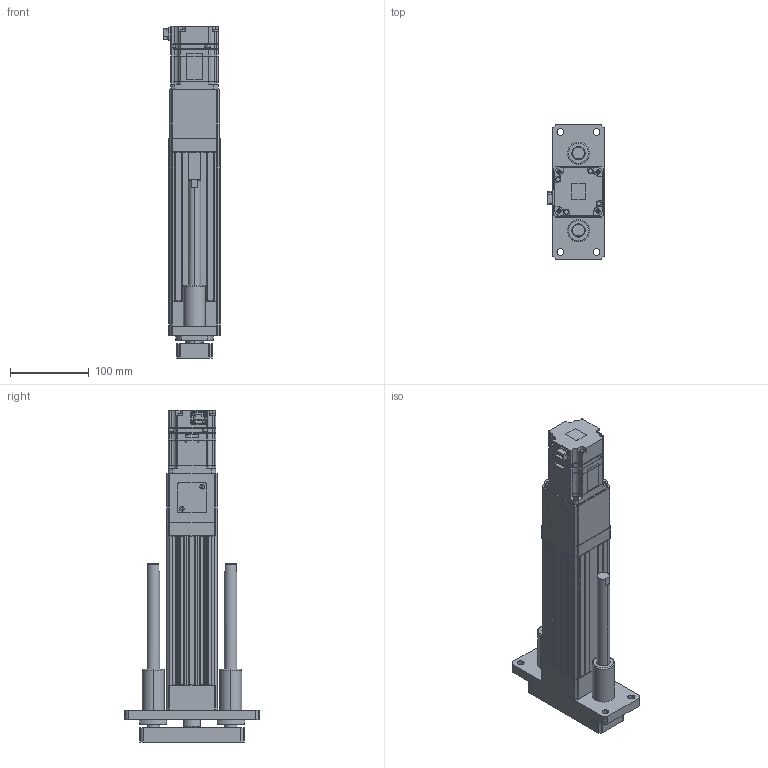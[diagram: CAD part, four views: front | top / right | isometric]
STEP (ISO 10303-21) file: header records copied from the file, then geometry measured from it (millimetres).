
FILE_DESCRIPTION (( 'STEP AP203' ), '1' );
FILE_NAME ('ANS065-GS100-05(10)-W20.STEP', '2019-02-28T08:30:19', ( 'user' ), ( '' ), 'SwSTEP 2.0', 'SolidWorks 2013', '' );
FILE_SCHEMA (( 'CONFIG_CONTROL_DESIGN' ));
Length unit declared in the file: millimetre
Products named in the file (4): ANS065 GS100 VER2; ANS065 ROD ST100 G; sgmjv_02a_a21; ANS065-GS100-05(10)-W20
Assembly tree (3 placements, depth 2):
  ANS065-GS100-05(10)-W20
    ANS065 GS100 VER2
    ANS065 ROD ST100 G
    sgmjv_02a_a21
Bounding box: 71.3 x 170 x 420.6 mm (x, y, z)
Volume: 1387925.1 mm3; surface area: 304943 mm2
Topology: 3 solids, 19 shells, 1500 faces, 3817 edges, 2439 vertices
Faces by surface type: plane 832, cylinder 482, cone 182, torus 4
Entity records: 45333 total; most frequent: CARTESIAN_POINT 7996, DIRECTION 7837, ORIENTED_EDGE 7570, EDGE_CURVE 3785, AXIS2_PLACEMENT_3D 2626, VECTOR 2585, LINE 2585, VERTEX_POINT 2439
